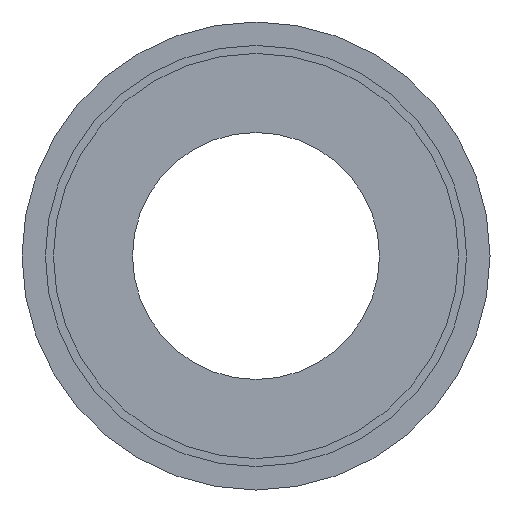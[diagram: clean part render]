
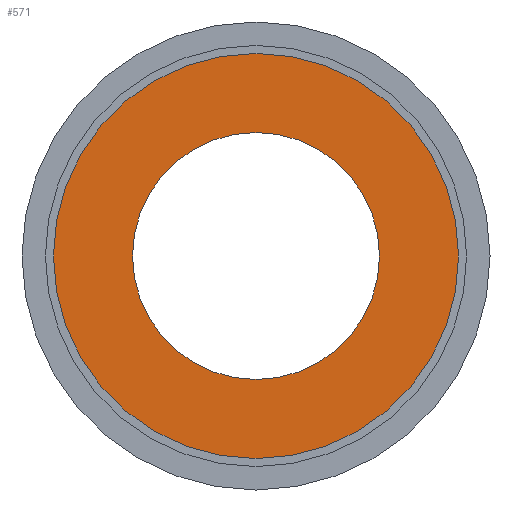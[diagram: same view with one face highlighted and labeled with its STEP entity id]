
A CAD part, left-side view. The second image highlights one B-rep face of the part: STEP entity #571.
In plain terms, the highlighted planar face has unit normal (-1, 0, 0).
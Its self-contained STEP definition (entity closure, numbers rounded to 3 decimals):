
#537=CARTESIAN_POINT('',(0.,76.5,0.0));
#538=VERTEX_POINT('',#537);
#539=CARTESIAN_POINT('',(0.,0.0,0.0));
#540=DIRECTION('',(1.0,0.0,0.0));
#541=DIRECTION('',(0.0,1.0,0.0));
#542=AXIS2_PLACEMENT_3D('',#539,#540,#541);
#543=CIRCLE('',#542,76.5);
#544=EDGE_CURVE('',#538,#538,#543,.T.);
#552=CARTESIAN_POINT('',(0.,101.0,0.0));
#553=DIRECTION('',(-1.0,0.0,0.0));
#554=DIRECTION('',(0.0,0.0,1.0));
#555=AXIS2_PLACEMENT_3D('',#552,#553,#554);
#556=PLANE('',#555);
#557=CARTESIAN_POINT('',(0.,125.5,0.0));
#558=VERTEX_POINT('',#557);
#559=CARTESIAN_POINT('',(0.,0.0,0.0));
#560=DIRECTION('',(1.0,0.0,0.0));
#561=DIRECTION('',(0.0,1.0,0.0));
#562=AXIS2_PLACEMENT_3D('',#559,#560,#561);
#563=CIRCLE('',#562,125.5);
#564=EDGE_CURVE('',#558,#558,#563,.T.);
#565=ORIENTED_EDGE('',*,*,#564,.F.);
#566=EDGE_LOOP('',(#565));
#567=FACE_OUTER_BOUND('',#566,.T.);
#568=ORIENTED_EDGE('',*,*,#544,.T.);
#569=EDGE_LOOP('',(#568));
#570=FACE_BOUND('',#569,.T.);
#571=ADVANCED_FACE('',(#567,#570),#556,.T.);
